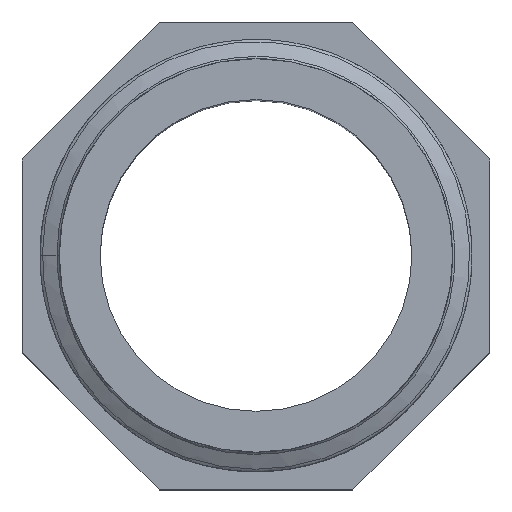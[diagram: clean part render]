
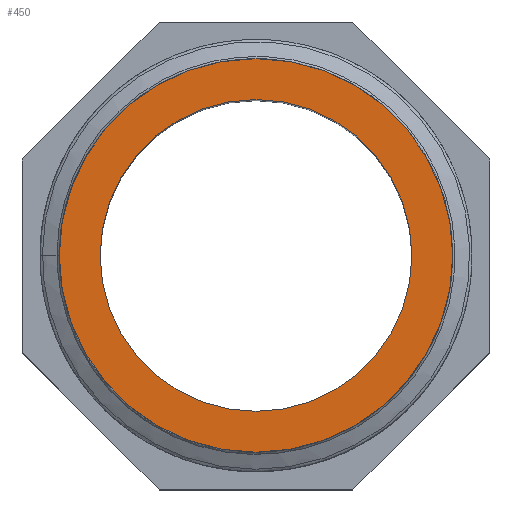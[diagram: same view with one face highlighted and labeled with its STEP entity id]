
A CAD part, top view. The second image highlights one B-rep face of the part: STEP entity #450.
In plain terms, the highlighted planar face has unit normal (0, 0, 1).
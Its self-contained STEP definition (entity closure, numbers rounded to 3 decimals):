
#25=CIRCLE('',#474,15.146);
#26=CIRCLE('',#476,12.);
#42=FACE_BOUND('',#123,.T.);
#91=FACE_OUTER_BOUND('',#122,.T.);
#122=EDGE_LOOP('',(#408));
#123=EDGE_LOOP('',(#409));
#221=VERTEX_POINT('',#6863);
#222=VERTEX_POINT('',#6886);
#283=EDGE_CURVE('',#221,#221,#25,.T.);
#284=EDGE_CURVE('',#222,#222,#26,.T.);
#408=ORIENTED_EDGE('',*,*,#283,.T.);
#409=ORIENTED_EDGE('',*,*,#284,.T.);
#423=PLANE('',#479);
#450=ADVANCED_FACE('',(#91,#42),#423,.T.);
#474=AXIS2_PLACEMENT_3D('',#6884,#554,#555);
#476=AXIS2_PLACEMENT_3D('',#6887,#558,#559);
#479=AXIS2_PLACEMENT_3D('',#6891,#564,#565);
#554=DIRECTION('center_axis',(0.,0.,1.));
#555=DIRECTION('ref_axis',(-1.,0.,0.));
#558=DIRECTION('center_axis',(0.,0.,-1.));
#559=DIRECTION('ref_axis',(-1.,0.,0.));
#564=DIRECTION('center_axis',(0.,0.,1.));
#565=DIRECTION('ref_axis',(1.,0.,0.));
#6863=CARTESIAN_POINT('',(-15.146,0.,25.));
#6884=CARTESIAN_POINT('Origin',(0.,0.,25.));
#6886=CARTESIAN_POINT('',(12.,0.,25.));
#6887=CARTESIAN_POINT('Origin',(0.,0.,25.));
#6891=CARTESIAN_POINT('Origin',(0.,0.,
25.));
